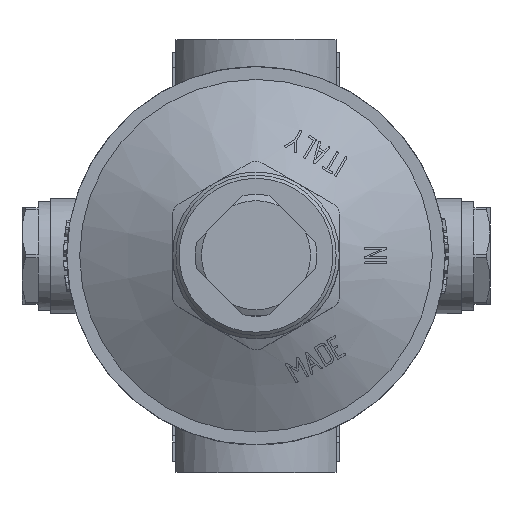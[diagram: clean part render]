
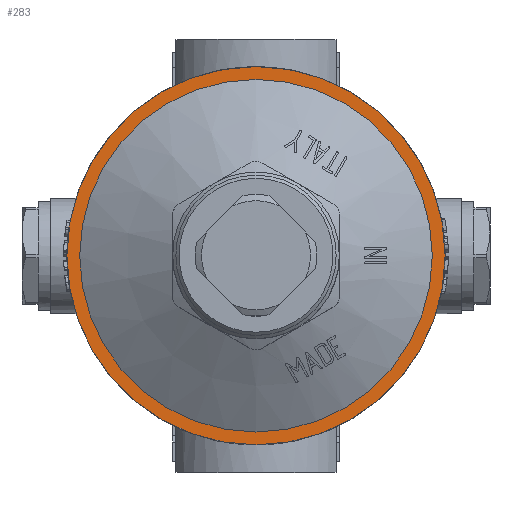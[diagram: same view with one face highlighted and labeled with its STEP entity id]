
A CAD part, top view. The second image highlights one B-rep face of the part: STEP entity #283.
In plain terms, the highlighted planar face has unit normal (0, 0, 1).
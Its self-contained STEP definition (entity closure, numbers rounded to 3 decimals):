
#283=ADVANCED_FACE('',(#2382,#2384),#2386,.T.);
#2382=FACE_BOUND('',#2383,.T.);
#2383=EDGE_LOOP('',(#8201));
#2384=FACE_BOUND('',#2385,.T.);
#2385=EDGE_LOOP('',(#8202));
#2386=PLANE('',#2387);
#2387=AXIS2_PLACEMENT_3D('',#2388,#2389,#2390);
#2388=CARTESIAN_POINT('',(0.,0.,22.5));
#2389=DIRECTION('',(0.,0.,1.));
#2390=DIRECTION('',(-1.,0.,0.));
#8201=ORIENTED_EDGE('',*,*,#12433,.T.);
#8202=ORIENTED_EDGE('',*,*,#12411,.T.);
#12411=EDGE_CURVE('',#14918,#14918,#14919,.F.);
#12433=EDGE_CURVE('',#14952,#14952,#14953,.T.);
#14918=VERTEX_POINT('',#23596);
#14919=CIRCLE('',#23597,27.5);
#14952=VERTEX_POINT('',#23950);
#14953=CIRCLE('',#23951,29.5);
#23596=CARTESIAN_POINT('',(0.,27.5,22.5));
#23597=AXIS2_PLACEMENT_3D('',#23598,#23599,#23600);
#23598=CARTESIAN_POINT('',(0.,0.,22.5));
#23599=DIRECTION('',(0.,0.,1.));
#23600=DIRECTION('',(0.,1.,0.));
#23950=CARTESIAN_POINT('',(-29.5,0.,22.5));
#23951=AXIS2_PLACEMENT_3D('',#23952,#23953,#23954);
#23952=CARTESIAN_POINT('',(0.,0.,22.5));
#23953=DIRECTION('',(0.,0.,1.));
#23954=DIRECTION('',(-1.,0.,0.));
